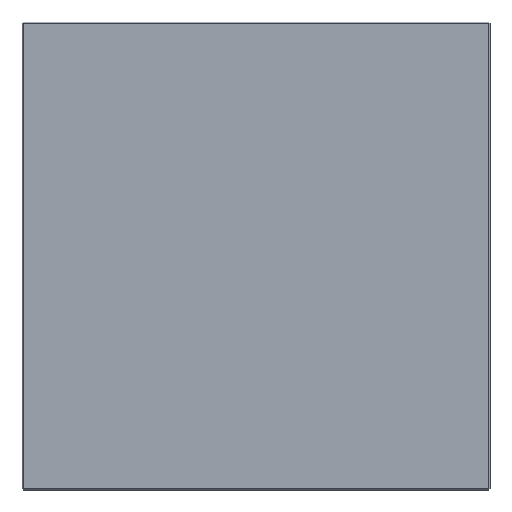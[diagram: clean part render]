
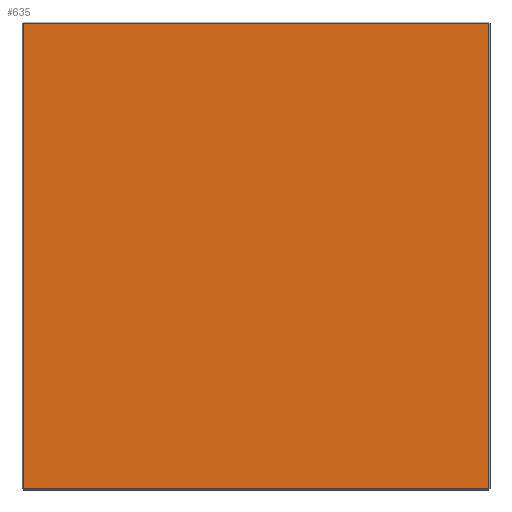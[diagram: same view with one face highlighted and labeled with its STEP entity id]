
A CAD part, front view. The second image highlights one B-rep face of the part: STEP entity #635.
In plain terms, the highlighted planar face has unit normal (0, -1, 0).
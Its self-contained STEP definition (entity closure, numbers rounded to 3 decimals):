
#8 = DIRECTION ( 'NONE',  ( 1., 0., 0. ) ) ;
#12 = CARTESIAN_POINT ( 'NONE',  ( 0., 0., -197. ) ) ;
#21 = DIRECTION ( 'NONE',  ( 0., 0., -1. ) ) ;
#31 = LINE ( 'NONE', #12, #276 ) ;
#40 = VERTEX_POINT ( 'NONE', #89 ) ;
#43 = VECTOR ( 'NONE', #21, 1000. ) ;
#58 = DIRECTION ( 'NONE',  ( 0., 0., 1. ) ) ;
#62 = VERTEX_POINT ( 'NONE', #450 ) ;
#67 = VERTEX_POINT ( 'NONE', #566 ) ;
#89 = CARTESIAN_POINT ( 'NONE',  ( -197., 0., 197. ) ) ;
#103 = ORIENTED_EDGE ( 'NONE', *, *, #366, .T. ) ;
#143 = ORIENTED_EDGE ( 'NONE', *, *, #626, .T. ) ;
#147 = CARTESIAN_POINT ( 'NONE',  ( 0., 0., 0. ) ) ;
#191 = DIRECTION ( 'NONE',  ( -1., 0., 0. ) ) ;
#197 = LINE ( 'NONE', #328, #628 ) ;
#211 = CARTESIAN_POINT ( 'NONE',  ( -197., 0., 0. ) ) ;
#236 = PLANE ( 'NONE',  #556 ) ;
#254 = DIRECTION ( 'NONE',  ( 0., 0., 1. ) ) ;
#276 = VECTOR ( 'NONE', #8, 1000. ) ;
#281 = EDGE_CURVE ( 'NONE', #67, #62, #197, .T. ) ;
#328 = CARTESIAN_POINT ( 'NONE',  ( 197., 0., 0. ) ) ;
#345 = EDGE_LOOP ( 'NONE', ( #602, #143, #530, #103 ) ) ;
#349 = EDGE_CURVE ( 'NONE', #40, #456, #442, .T. ) ;
#366 = EDGE_CURVE ( 'NONE', #456, #67, #31, .T. ) ;
#402 = CARTESIAN_POINT ( 'NONE',  ( -197., 0., -197. ) ) ;
#418 = VECTOR ( 'NONE', #191, 1000. ) ;
#436 = FACE_OUTER_BOUND ( 'NONE', #345, .T. ) ;
#442 = LINE ( 'NONE', #211, #43 ) ;
#450 = CARTESIAN_POINT ( 'NONE',  ( 197., 0., 197. ) ) ;
#456 = VERTEX_POINT ( 'NONE', #402 ) ;
#475 = DIRECTION ( 'NONE',  ( 0., 1., 0. ) ) ;
#530 = ORIENTED_EDGE ( 'NONE', *, *, #349, .T. ) ;
#543 = CARTESIAN_POINT ( 'NONE',  ( 0., 0., 197. ) ) ;
#548 = LINE ( 'NONE', #543, #418 ) ;
#556 = AXIS2_PLACEMENT_3D ( 'NONE', #147, #475, #58 ) ;
#566 = CARTESIAN_POINT ( 'NONE',  ( 197., 0., -197. ) ) ;
#602 = ORIENTED_EDGE ( 'NONE', *, *, #281, .T. ) ;
#626 = EDGE_CURVE ( 'NONE', #62, #40, #548, .T. ) ;
#628 = VECTOR ( 'NONE', #254, 1000. ) ;
#635 = ADVANCED_FACE ( 'NONE', ( #436 ), #236, .F. ) ;
